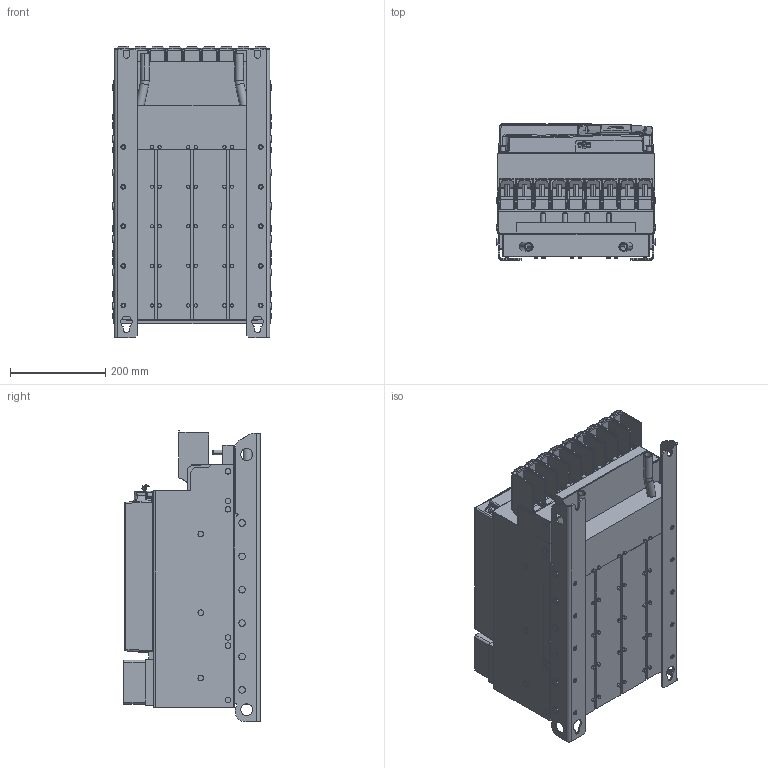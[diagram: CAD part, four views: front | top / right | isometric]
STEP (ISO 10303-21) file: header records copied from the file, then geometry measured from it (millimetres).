
FILE_DESCRIPTION (( 'STEP AP214' ), '1' );
FILE_NAME ('TW0 AZ.STEP', '2023-11-20T07:41:40', ( '' ), ( '' ), 'SwSTEP 2.0', 'SolidWorks 2022', '' );
FILE_SCHEMA (( 'AUTOMOTIVE_DESIGN' ));
Length unit declared in the file: millimetre
Products named in the file (13): 10077759_000_ Leistungsteil + BW F6-7 TW0 (Kundenmodell); Kundenmodell^10061502_000; Kundenmodell^10059764_000; 10059764_000_Blindabdeckung (Kundenmodell); 10043622_000_70F6 Klemme (Kundenmodell); Kundenmodell^10045475_000_Gehäusebaugruppe ohne Lüfterkarte; Kundenmodell mit Zubehör^10077759_000; Kundenmodell^10043622_000; Kundenmodell^10035736_000; TW0 AZ; 10035736_000_Kundenmodell; 10061502_000_Deckel (Kundenmodell); 10045475_000_Gehäusebaugruppe F6-7 (Kundenmodell)
Assembly tree (12 placements, depth 4):
  TW0 AZ
    10077759_000_ Leistungsteil + BW F6-7 TW0 (Kundenmodell)
      10043622_000_70F6 Klemme (Kundenmodell)
        Kundenmodell^10043622_000
      Kundenmodell mit Zubehör^10077759_000
    10045475_000_Gehäusebaugruppe F6-7 (Kundenmodell)
      10061502_000_Deckel (Kundenmodell)
        Kundenmodell^10061502_000
      Kundenmodell^10045475_000_Gehäusebaugruppe ohne Lüfterkarte
    10035736_000_Kundenmodell
      10059764_000_Blindabdeckung (Kundenmodell)
        Kundenmodell^10059764_000
      Kundenmodell^10035736_000
Bounding box: 335.4 x 285.9 x 610.76 mm (x, y, z)
Volume: 43641599.1 mm3; surface area: 2204538.7 mm2
Topology: 12 solids, 12 shells, 3270 faces, 8311 edges, 5118 vertices
Faces by surface type: plane 1648, cylinder 1032, bspline 281, sphere 172, torus 75, cone 62
Entity records: 105137 total; most frequent: CARTESIAN_POINT 27888, ORIENTED_EDGE 16402, DIRECTION 15264, EDGE_CURVE 8201, LINE 5194, VECTOR 5194, VERTEX_POINT 5115, AXIS2_PLACEMENT_3D 5035
